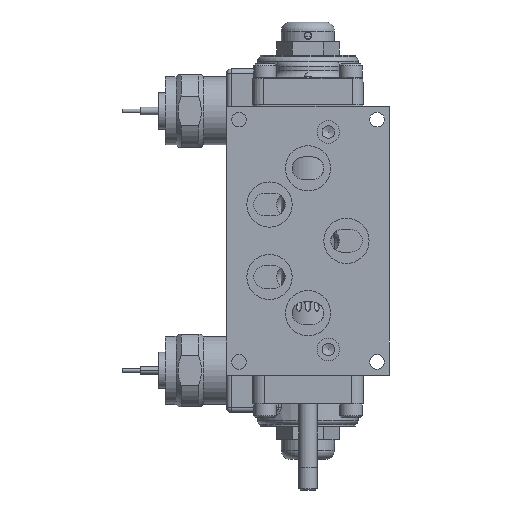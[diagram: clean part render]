
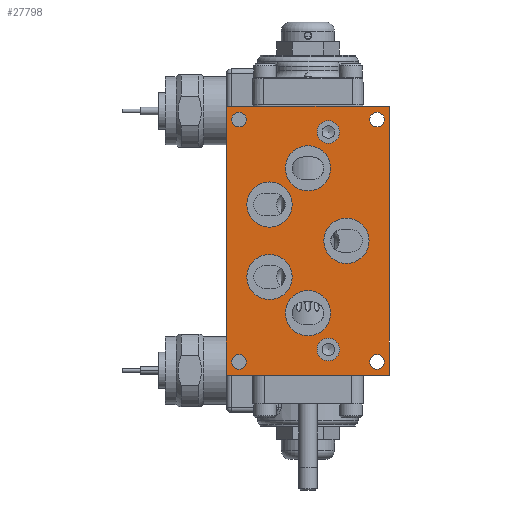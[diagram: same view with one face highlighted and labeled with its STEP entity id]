
A CAD part, front view. The second image highlights one B-rep face of the part: STEP entity #27798.
In plain terms, the highlighted planar face has unit normal (0, -1, 0).
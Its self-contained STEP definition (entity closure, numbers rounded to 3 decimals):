
#638=FACE_BOUND('',#4455,.T.);
#639=FACE_BOUND('',#4456,.T.);
#640=FACE_BOUND('',#4457,.T.);
#641=FACE_BOUND('',#4458,.T.);
#642=FACE_BOUND('',#4459,.T.);
#643=FACE_BOUND('',#4460,.T.);
#644=FACE_BOUND('',#4461,.T.);
#645=FACE_BOUND('',#4462,.T.);
#646=FACE_BOUND('',#4463,.T.);
#647=FACE_BOUND('',#4464,.T.);
#648=FACE_BOUND('',#4465,.T.);
#1689=PLANE('',#30117);
#2753=FACE_OUTER_BOUND('',#4454,.T.);
#4454=EDGE_LOOP('',(#20467,#20468,#20469,#20470));
#4455=EDGE_LOOP('',(#20471,#20472));
#4456=EDGE_LOOP('',(#20473,#20474));
#4457=EDGE_LOOP('',(#20475,#20476));
#4458=EDGE_LOOP('',(#20477,#20478));
#4459=EDGE_LOOP('',(#20479,#20480));
#4460=EDGE_LOOP('',(#20481,#20482));
#4461=EDGE_LOOP('',(#20483,#20484));
#4462=EDGE_LOOP('',(#20485));
#4463=EDGE_LOOP('',(#20486));
#4464=EDGE_LOOP('',(#20487));
#4465=EDGE_LOOP('',(#20488));
#6298=CIRCLE('',#30118,0.396);
#6299=CIRCLE('',#30119,0.396);
#6300=CIRCLE('',#30120,0.396);
#6301=CIRCLE('',#30121,0.396);
#6302=CIRCLE('',#30122,0.794);
#6303=CIRCLE('',#30123,0.794);
#6304=CIRCLE('',#30124,0.794);
#6305=CIRCLE('',#30125,0.794);
#6306=CIRCLE('',#30126,0.794);
#6307=CIRCLE('',#30127,0.794);
#6308=CIRCLE('',#30128,0.794);
#6309=CIRCLE('',#30129,0.794);
#6310=CIRCLE('',#30130,0.794);
#6311=CIRCLE('',#30131,0.794);
#6312=CIRCLE('',#30132,0.258);
#6313=CIRCLE('',#30133,0.258);
#6314=CIRCLE('',#30134,0.258);
#6315=CIRCLE('',#30135,0.258);
#7892=LINE('',#48941,#9641);
#7904=LINE('',#48974,#9653);
#7932=LINE('',#49339,#9681);
#7933=LINE('',#49340,#9682);
#9641=VECTOR('',#35056,1.);
#9653=VECTOR('',#35078,1.);
#9681=VECTOR('',#35246,1.);
#9682=VECTOR('',#35247,1.);
#11786=VERTEX_POINT('',#48937);
#11788=VERTEX_POINT('',#48940);
#11802=VERTEX_POINT('',#48970);
#11804=VERTEX_POINT('',#48973);
#11869=VERTEX_POINT('',#49341);
#11870=VERTEX_POINT('',#49342);
#11871=VERTEX_POINT('',#49345);
#11872=VERTEX_POINT('',#49346);
#11873=VERTEX_POINT('',#49349);
#11874=VERTEX_POINT('',#49350);
#11875=VERTEX_POINT('',#49353);
#11876=VERTEX_POINT('',#49354);
#11877=VERTEX_POINT('',#49357);
#11878=VERTEX_POINT('',#49358);
#11879=VERTEX_POINT('',#49361);
#11880=VERTEX_POINT('',#49362);
#11881=VERTEX_POINT('',#49365);
#11882=VERTEX_POINT('',#49366);
#11883=VERTEX_POINT('',#49369);
#11884=VERTEX_POINT('',#49371);
#11885=VERTEX_POINT('',#49373);
#11886=VERTEX_POINT('',#49375);
#14949=EDGE_CURVE('',#11788,#11786,#7892,.T.);
#14965=EDGE_CURVE('',#11804,#11802,#7904,.T.);
#15050=EDGE_CURVE('',#11802,#11788,#7932,.T.);
#15051=EDGE_CURVE('',#11786,#11804,#7933,.T.);
#15052=EDGE_CURVE('',#11869,#11870,#6298,.T.);
#15053=EDGE_CURVE('',#11870,#11869,#6299,.T.);
#15054=EDGE_CURVE('',#11871,#11872,#6300,.T.);
#15055=EDGE_CURVE('',#11872,#11871,#6301,.T.);
#15056=EDGE_CURVE('',#11873,#11874,#6302,.T.);
#15057=EDGE_CURVE('',#11874,#11873,#6303,.T.);
#15058=EDGE_CURVE('',#11875,#11876,#6304,.T.);
#15059=EDGE_CURVE('',#11876,#11875,#6305,.T.);
#15060=EDGE_CURVE('',#11877,#11878,#6306,.T.);
#15061=EDGE_CURVE('',#11878,#11877,#6307,.T.);
#15062=EDGE_CURVE('',#11879,#11880,#6308,.T.);
#15063=EDGE_CURVE('',#11880,#11879,#6309,.T.);
#15064=EDGE_CURVE('',#11881,#11882,#6310,.T.);
#15065=EDGE_CURVE('',#11882,#11881,#6311,.T.);
#15066=EDGE_CURVE('',#11883,#11883,#6312,.T.);
#15067=EDGE_CURVE('',#11884,#11884,#6313,.T.);
#15068=EDGE_CURVE('',#11885,#11885,#6314,.T.);
#15069=EDGE_CURVE('',#11886,#11886,#6315,.T.);
#20467=ORIENTED_EDGE('',*,*,#14965,.T.);
#20468=ORIENTED_EDGE('',*,*,#15050,.T.);
#20469=ORIENTED_EDGE('',*,*,#14949,.T.);
#20470=ORIENTED_EDGE('',*,*,#15051,.T.);
#20471=ORIENTED_EDGE('',*,*,#15052,.T.);
#20472=ORIENTED_EDGE('',*,*,#15053,.T.);
#20473=ORIENTED_EDGE('',*,*,#15054,.T.);
#20474=ORIENTED_EDGE('',*,*,#15055,.T.);
#20475=ORIENTED_EDGE('',*,*,#15056,.T.);
#20476=ORIENTED_EDGE('',*,*,#15057,.T.);
#20477=ORIENTED_EDGE('',*,*,#15058,.T.);
#20478=ORIENTED_EDGE('',*,*,#15059,.T.);
#20479=ORIENTED_EDGE('',*,*,#15060,.T.);
#20480=ORIENTED_EDGE('',*,*,#15061,.T.);
#20481=ORIENTED_EDGE('',*,*,#15062,.T.);
#20482=ORIENTED_EDGE('',*,*,#15063,.T.);
#20483=ORIENTED_EDGE('',*,*,#15064,.T.);
#20484=ORIENTED_EDGE('',*,*,#15065,.T.);
#20485=ORIENTED_EDGE('',*,*,#15066,.T.);
#20486=ORIENTED_EDGE('',*,*,#15067,.T.);
#20487=ORIENTED_EDGE('',*,*,#15068,.T.);
#20488=ORIENTED_EDGE('',*,*,#15069,.T.);
#27798=ADVANCED_FACE('',(#2753,#638,#639,#640,#641,#642,#643,#644,#645,
#646,#647,#648),#1689,.T.);
#30117=AXIS2_PLACEMENT_3D('',#49338,#35244,#35245);
#30118=AXIS2_PLACEMENT_3D('',#49343,#35248,#35249);
#30119=AXIS2_PLACEMENT_3D('',#49344,#35250,#35251);
#30120=AXIS2_PLACEMENT_3D('',#49347,#35252,#35253);
#30121=AXIS2_PLACEMENT_3D('',#49348,#35254,#35255);
#30122=AXIS2_PLACEMENT_3D('',#49351,#35256,#35257);
#30123=AXIS2_PLACEMENT_3D('',#49352,#35258,#35259);
#30124=AXIS2_PLACEMENT_3D('',#49355,#35260,#35261);
#30125=AXIS2_PLACEMENT_3D('',#49356,#35262,#35263);
#30126=AXIS2_PLACEMENT_3D('',#49359,#35264,#35265);
#30127=AXIS2_PLACEMENT_3D('',#49360,#35266,#35267);
#30128=AXIS2_PLACEMENT_3D('',#49363,#35268,#35269);
#30129=AXIS2_PLACEMENT_3D('',#49364,#35270,#35271);
#30130=AXIS2_PLACEMENT_3D('',#49367,#35272,#35273);
#30131=AXIS2_PLACEMENT_3D('',#49368,#35274,#35275);
#30132=AXIS2_PLACEMENT_3D('',#49370,#35276,#35277);
#30133=AXIS2_PLACEMENT_3D('',#49372,#35278,#35279);
#30134=AXIS2_PLACEMENT_3D('',#49374,#35280,#35281);
#30135=AXIS2_PLACEMENT_3D('',#49376,#35282,#35283);
#35056=DIRECTION('',(1.,0.,0.));
#35078=DIRECTION('',(-1.,0.,0.));
#35244=DIRECTION('center_axis',(0.,-1.,0.));
#35245=DIRECTION('ref_axis',(0.,0.,-1.));
#35246=DIRECTION('',(0.,0.,-1.));
#35247=DIRECTION('',(0.,0.,1.));
#35248=DIRECTION('center_axis',(0.,1.,0.));
#35249=DIRECTION('ref_axis',(1.,0.,0.));
#35250=DIRECTION('center_axis',(0.,1.,0.));
#35251=DIRECTION('ref_axis',(1.,0.,0.));
#35252=DIRECTION('center_axis',(0.,1.,0.));
#35253=DIRECTION('ref_axis',(1.,0.,0.));
#35254=DIRECTION('center_axis',(0.,1.,0.));
#35255=DIRECTION('ref_axis',(1.,0.,0.));
#35256=DIRECTION('center_axis',(0.,1.,0.));
#35257=DIRECTION('ref_axis',(1.,0.,0.));
#35258=DIRECTION('center_axis',(0.,1.,0.));
#35259=DIRECTION('ref_axis',(1.,0.,0.));
#35260=DIRECTION('center_axis',(0.,1.,0.));
#35261=DIRECTION('ref_axis',(1.,0.,0.));
#35262=DIRECTION('center_axis',(0.,1.,0.));
#35263=DIRECTION('ref_axis',(1.,0.,0.));
#35264=DIRECTION('center_axis',(0.,1.,0.));
#35265=DIRECTION('ref_axis',(1.,0.,0.));
#35266=DIRECTION('center_axis',(0.,1.,0.));
#35267=DIRECTION('ref_axis',(1.,0.,0.));
#35268=DIRECTION('center_axis',(0.,1.,0.));
#35269=DIRECTION('ref_axis',(1.,0.,0.));
#35270=DIRECTION('center_axis',(0.,1.,0.));
#35271=DIRECTION('ref_axis',(1.,0.,0.));
#35272=DIRECTION('center_axis',(0.,1.,0.));
#35273=DIRECTION('ref_axis',(1.,0.,0.));
#35274=DIRECTION('center_axis',(0.,1.,0.));
#35275=DIRECTION('ref_axis',(1.,0.,0.));
#35276=DIRECTION('center_axis',(0.,1.,0.));
#35277=DIRECTION('ref_axis',(1.,0.,0.));
#35278=DIRECTION('center_axis',(0.,1.,0.));
#35279=DIRECTION('ref_axis',(1.,0.,0.));
#35280=DIRECTION('center_axis',(0.,1.,0.));
#35281=DIRECTION('ref_axis',(1.,0.,0.));
#35282=DIRECTION('center_axis',(0.,1.,0.));
#35283=DIRECTION('ref_axis',(1.,0.,0.));
#48937=CARTESIAN_POINT('',(2.858,-1.636,-4.71));
#48940=CARTESIAN_POINT('',(-2.858,-1.636,-4.71));
#48941=CARTESIAN_POINT('',(-2.858,-1.636,-4.71));
#48970=CARTESIAN_POINT('',(-2.858,-1.636,4.71));
#48973=CARTESIAN_POINT('',(2.858,-1.636,4.71));
#48974=CARTESIAN_POINT('',(-2.858,-1.636,4.71));
#49338=CARTESIAN_POINT('Origin',(2.858,-1.636,0.));
#49339=CARTESIAN_POINT('',(-2.858,-1.636,0.));
#49340=CARTESIAN_POINT('',(2.858,-1.636,0.));
#49341=CARTESIAN_POINT('',(1.11,-1.636,-3.81));
#49342=CARTESIAN_POINT('',(0.318,-1.636,-3.81));
#49343=CARTESIAN_POINT('Origin',(0.714,-1.636,-3.81));
#49344=CARTESIAN_POINT('Origin',(0.714,-1.636,-3.81));
#49345=CARTESIAN_POINT('',(1.11,-1.636,3.81));
#49346=CARTESIAN_POINT('',(0.318,-1.636,3.81));
#49347=CARTESIAN_POINT('Origin',(0.714,-1.636,3.81));
#49348=CARTESIAN_POINT('Origin',(0.714,-1.636,3.81));
#49349=CARTESIAN_POINT('',(2.142,-1.636,0.));
#49350=CARTESIAN_POINT('',(0.555,-1.636,0.));
#49351=CARTESIAN_POINT('Origin',(1.349,-1.636,0.));
#49352=CARTESIAN_POINT('Origin',(1.349,-1.636,0.));
#49353=CARTESIAN_POINT('',(0.794,-1.636,-2.54));
#49354=CARTESIAN_POINT('',(-0.794,-1.636,-2.54));
#49355=CARTESIAN_POINT('Origin',(0.,-1.636,-2.54));
#49356=CARTESIAN_POINT('Origin',(0.,-1.636,-2.54));
#49357=CARTESIAN_POINT('',(0.794,-1.636,2.54));
#49358=CARTESIAN_POINT('',(-0.794,-1.636,2.54));
#49359=CARTESIAN_POINT('Origin',(0.,-1.636,2.54));
#49360=CARTESIAN_POINT('Origin',(0.,-1.636,2.54));
#49361=CARTESIAN_POINT('',(-0.555,-1.636,-1.27));
#49362=CARTESIAN_POINT('',(-2.142,-1.636,-1.27));
#49363=CARTESIAN_POINT('Origin',(-1.349,-1.636,-1.27));
#49364=CARTESIAN_POINT('Origin',(-1.349,-1.636,-1.27));
#49365=CARTESIAN_POINT('',(-0.555,-1.636,1.27));
#49366=CARTESIAN_POINT('',(-2.142,-1.636,1.27));
#49367=CARTESIAN_POINT('Origin',(-1.349,-1.636,1.27));
#49368=CARTESIAN_POINT('Origin',(-1.349,-1.636,1.27));
#49369=CARTESIAN_POINT('',(-2.679,-1.636,4.247));
#49370=CARTESIAN_POINT('Origin',(-2.421,-1.636,4.247));
#49371=CARTESIAN_POINT('',(2.163,-1.636,4.247));
#49372=CARTESIAN_POINT('Origin',(2.421,-1.636,4.247));
#49373=CARTESIAN_POINT('',(2.163,-1.636,-4.247));
#49374=CARTESIAN_POINT('Origin',(2.421,-1.636,-4.247));
#49375=CARTESIAN_POINT('',(-2.679,-1.636,-4.247));
#49376=CARTESIAN_POINT('Origin',(-2.421,-1.636,-4.247));
